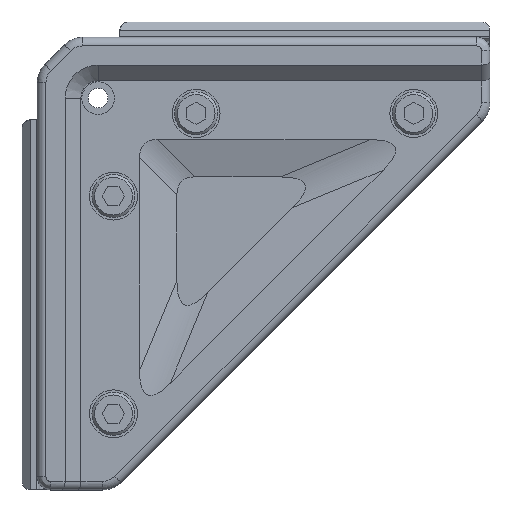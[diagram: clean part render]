
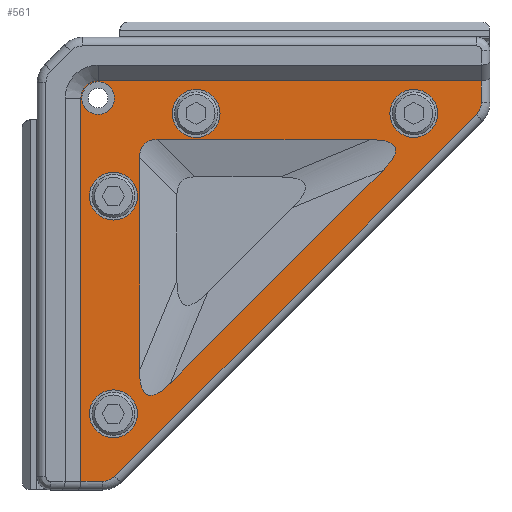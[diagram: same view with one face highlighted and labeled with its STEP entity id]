
A CAD part, front view. The second image highlights one B-rep face of the part: STEP entity #561.
In plain terms, the highlighted planar face has unit normal (0, -1, 0) as drawn and (0, 0, -1) by its records, which use the part's own axes.
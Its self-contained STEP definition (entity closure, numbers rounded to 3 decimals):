
#561=ADVANCED_FACE('',(#1136,#1137,#1138,#1139,#1140,#1141,#1142),#1143,.F.);
#1136=FACE_BOUND('',#1826,.T.);
#1137=FACE_BOUND('',#1827,.T.);
#1138=FACE_BOUND('',#1828,.T.);
#1139=FACE_BOUND('',#1829,.T.);
#1140=FACE_BOUND('',#1830,.T.);
#1141=FACE_OUTER_BOUND('',#1831,.T.);
#1142=FACE_BOUND('',#1832,.T.);
#1143=PLANE('',#1833);
#1826=EDGE_LOOP('',(#2963));
#1827=EDGE_LOOP('',(#2964));
#1828=EDGE_LOOP('',(#2965));
#1829=EDGE_LOOP('',(#2966));
#1830=EDGE_LOOP('',(#2967));
#1831=EDGE_LOOP('',(#2968,#2969,#2970,#2971,#2972,#2973,#2974,#2975));
#1832=EDGE_LOOP('',(#2976,#2977,#2978,#2979,#2980,#2981));
#1833=AXIS2_PLACEMENT_3D('',#2982,#2983,#2984);
#2963=ORIENTED_EDGE('',*,*,#4293,.F.);
#2964=ORIENTED_EDGE('',*,*,#4294,.F.);
#2965=ORIENTED_EDGE('',*,*,#4295,.F.);
#2966=ORIENTED_EDGE('',*,*,#4296,.F.);
#2967=ORIENTED_EDGE('',*,*,#4297,.F.);
#2968=ORIENTED_EDGE('',*,*,#4298,.F.);
#2969=ORIENTED_EDGE('',*,*,#4160,.T.);
#2970=ORIENTED_EDGE('',*,*,#4299,.T.);
#2971=ORIENTED_EDGE('',*,*,#4300,.T.);
#2972=ORIENTED_EDGE('',*,*,#4301,.T.);
#2973=ORIENTED_EDGE('',*,*,#4302,.T.);
#2974=ORIENTED_EDGE('',*,*,#4303,.F.);
#2975=ORIENTED_EDGE('',*,*,#4214,.T.);
#2976=ORIENTED_EDGE('',*,*,#4225,.F.);
#2977=ORIENTED_EDGE('',*,*,#4230,.T.);
#2978=ORIENTED_EDGE('',*,*,#4304,.F.);
#2979=ORIENTED_EDGE('',*,*,#4305,.T.);
#2980=ORIENTED_EDGE('',*,*,#4306,.F.);
#2981=ORIENTED_EDGE('',*,*,#4265,.T.);
#2982=CARTESIAN_POINT('',(-18.6,-52.0,15.689));
#2983=DIRECTION('',(0.0,0.0,1.0));
#2984=DIRECTION('',(1.0,0.0,0.0));
#4160=EDGE_CURVE('',#4983,#4981,#4984,.F.);
#4214=EDGE_CURVE('',#5067,#5068,#5069,.F.);
#4225=EDGE_CURVE('',#5084,#5085,#5086,.T.);
#4230=EDGE_CURVE('',#5084,#5090,#5092,.T.);
#4265=EDGE_CURVE('',#5141,#5085,#5142,.T.);
#4293=EDGE_CURVE('',#5181,#5181,#5182,.T.);
#4294=EDGE_CURVE('',#5183,#5183,#5184,.T.);
#4295=EDGE_CURVE('',#5185,#5185,#5186,.T.);
#4296=EDGE_CURVE('',#5187,#5187,#5188,.T.);
#4297=EDGE_CURVE('',#5189,#5189,#5190,.T.);
#4298=EDGE_CURVE('',#4983,#5068,#5191,.T.);
#4299=EDGE_CURVE('',#4981,#5192,#5193,.F.);
#4300=EDGE_CURVE('',#5192,#5194,#5195,.F.);
#4301=EDGE_CURVE('',#5194,#5196,#5197,.F.);
#4302=EDGE_CURVE('',#5196,#5198,#5199,.F.);
#4303=EDGE_CURVE('',#5067,#5198,#5200,.T.);
#4304=EDGE_CURVE('',#5201,#5090,#5202,.T.);
#4305=EDGE_CURVE('',#5201,#5203,#5204,.T.);
#4306=EDGE_CURVE('',#5141,#5203,#5205,.T.);
#4981=VERTEX_POINT('',#6089);
#4983=VERTEX_POINT('',#6091);
#4984=LINE('',#6092,#6093);
#5067=VERTEX_POINT('',#6205);
#5068=VERTEX_POINT('',#6206);
#5069=CIRCLE('',#6207,4.);
#5084=VERTEX_POINT('',#6228);
#5085=VERTEX_POINT('',#6229);
#5086=LINE('',#6230,#6231);
#5090=VERTEX_POINT('',#6237);
#5092=ELLIPSE('',#6240,156.855,16.0);
#5141=VERTEX_POINT('',#6301);
#5142=ELLIPSE('',#6302,156.855,16.0);
#5181=VERTEX_POINT('',#6351);
#5182=CIRCLE('',#6352,3.75);
#5183=VERTEX_POINT('',#6353);
#5184=CIRCLE('',#6354,5.5);
#5185=VERTEX_POINT('',#6355);
#5186=CIRCLE('',#6356,5.5);
#5187=VERTEX_POINT('',#6357);
#5188=CIRCLE('',#6358,5.5);
#5189=VERTEX_POINT('',#6359);
#5190=CIRCLE('',#6360,5.5);
#5191=LINE('',#6361,#6362);
#5192=VERTEX_POINT('',#6363);
#5193=CIRCLE('',#6364,4.0);
#5194=VERTEX_POINT('',#6365);
#5195=LINE('',#6366,#6367);
#5196=VERTEX_POINT('',#6368);
#5197=CIRCLE('',#6369,4.0);
#5198=VERTEX_POINT('',#6370);
#5199=LINE('',#6371,#6372);
#5200=LINE('',#6373,#6374);
#5201=VERTEX_POINT('',#6375);
#5202=LINE('',#6376,#6377);
#5203=VERTEX_POINT('',#6378);
#5204=ELLIPSE('',#6379,85.949,16.0);
#5205=LINE('',#6380,#6381);
#6089=CARTESIAN_POINT('',(77.0,36.985,15.689));
#6091=CARTESIAN_POINT('',(77.0,42.,15.689));
#6092=CARTESIAN_POINT('',(77.0,-52.0,15.689));
#6093=VECTOR('',#7129,1.0);
#6205=CARTESIAN_POINT('',(-15.,38.,15.689));
#6206=CARTESIAN_POINT('',(-11.0,42.,15.689));
#6207=AXIS2_PLACEMENT_3D('',#7198,#7199,#7200);
#6228=CARTESIAN_POINT('',(54.431,21.431,15.689));
#6229=CARTESIAN_POINT('',(5.569,-27.431,15.689));
#6230=CARTESIAN_POINT('',(-18.8,-51.8,15.689));
#6231=VECTOR('',#7210,1.0);
#6237=CARTESIAN_POINT('',(51.502,28.5,15.689));
#6240=AXIS2_PLACEMENT_3D('',#7214,#7215,#7216);
#6301=CARTESIAN_POINT('',(-1.5,-24.502,15.689));
#6302=AXIS2_PLACEMENT_3D('',#7259,#7260,#7261);
#6351=CARTESIAN_POINT('',(-11.0,34.25,15.689));
#6352=AXIS2_PLACEMENT_3D('',#7305,#7306,#7307);
#6353=CARTESIAN_POINT('',(61.5,29.0,15.689));
#6354=AXIS2_PLACEMENT_3D('',#7308,#7309,#7310);
#6355=CARTESIAN_POINT('',(11.5,29.0,15.689));
#6356=AXIS2_PLACEMENT_3D('',#7311,#7312,#7313);
#6357=CARTESIAN_POINT('',(-7.5,-40.0,15.689));
#6358=AXIS2_PLACEMENT_3D('',#7314,#7315,#7316);
#6359=CARTESIAN_POINT('',(-7.5,10.0,15.689));
#6360=AXIS2_PLACEMENT_3D('',#7317,#7318,#7319);
#6361=CARTESIAN_POINT('',(27.0,42.,15.689));
#6362=VECTOR('',#7320,1.0);
#6363=CARTESIAN_POINT('',(75.828,34.157,15.689));
#6364=AXIS2_PLACEMENT_3D('',#7321,#7322,#7323);
#6365=CARTESIAN_POINT('',(-7.157,-48.828,15.689));
#6366=CARTESIAN_POINT('',(-7.157,-48.828,15.689));
#6367=VECTOR('',#7324,1.0);
#6368=CARTESIAN_POINT('',(-9.985,-50.0,15.689));
#6369=AXIS2_PLACEMENT_3D('',#7325,#7326,#7327);
#6370=CARTESIAN_POINT('',(-15.,-50.0,15.689));
#6371=CARTESIAN_POINT('',(-18.6,-50.0,15.689));
#6372=VECTOR('',#7328,1.0);
#6373=CARTESIAN_POINT('',(-15.,0.0,15.689));
#6374=VECTOR('',#7329,1.0);
#6375=CARTESIAN_POINT('',(2.641,28.5,15.689));
#6376=CARTESIAN_POINT('',(-18.6,28.5,15.689));
#6377=VECTOR('',#7330,1.0);
#6378=CARTESIAN_POINT('',(-1.5,24.359,15.689));
#6379=AXIS2_PLACEMENT_3D('',#7331,#7332,#7333);
#6380=CARTESIAN_POINT('',(-1.5,-52.0,15.689));
#6381=VECTOR('',#7334,1.0);
#7129=DIRECTION('',(0.0,1.0,0.0));
#7198=CARTESIAN_POINT('',(-11.0,38.,15.689));
#7199=DIRECTION('',(0.0,0.0,1.0));
#7200=DIRECTION('',(1.0,0.0,0.0));
#7210=DIRECTION('',(-0.707,-0.707,0.0));
#7214=CARTESIAN_POINT('',(-87.745,-33.319,15.689));
#7215=DIRECTION('',(0.0,0.0,1.0));
#7216=DIRECTION('',(-0.924,-0.383,0.0));
#7259=CARTESIAN_POINT('',(60.319,114.745,15.689));
#7260=DIRECTION('',(0.0,-0.0,1.0));
#7261=DIRECTION('',(0.383,0.924,0.0));
#7305=CARTESIAN_POINT('',(-11.0,38.0,15.689));
#7306=DIRECTION('',(0.0,0.,-1.0));
#7307=DIRECTION('',(0.0,-1.0,0.));
#7308=CARTESIAN_POINT('',(61.5,34.5,15.689));
#7309=DIRECTION('',(0.0,0.,-1.0));
#7310=DIRECTION('',(0.0,-1.0,0.));
#7311=CARTESIAN_POINT('',(11.5,34.5,15.689));
#7312=DIRECTION('',(0.0,0.,-1.0));
#7313=DIRECTION('',(0.0,-1.0,0.));
#7314=CARTESIAN_POINT('',(-7.5,-34.5,15.689));
#7315=DIRECTION('',(0.0,0.,-1.0));
#7316=DIRECTION('',(0.0,-1.0,0.));
#7317=CARTESIAN_POINT('',(-7.5,15.5,15.689));
#7318=DIRECTION('',(0.0,0.,-1.0));
#7319=DIRECTION('',(0.0,-1.0,0.));
#7320=DIRECTION('',(-1.0,0.0,0.0));
#7321=CARTESIAN_POINT('',(73.0,36.985,15.689));
#7322=DIRECTION('',(0.0,0.0,1.0));
#7323=DIRECTION('',(1.0,0.0,0.0));
#7324=DIRECTION('',(0.707,0.707,0.0));
#7325=CARTESIAN_POINT('',(-9.985,-46.0,15.689));
#7326=DIRECTION('',(0.0,0.0,1.0));
#7327=DIRECTION('',(1.0,0.0,0.0));
#7328=DIRECTION('',(1.0,0.0,0.0));
#7329=DIRECTION('',(0.0,-1.0,0.0));
#7330=DIRECTION('',(1.0,0.,0.0));
#7331=CARTESIAN_POINT('',(60.319,-33.319,15.689));
#7332=DIRECTION('',(0.0,0.0,1.0));
#7333=DIRECTION('',(0.707,-0.707,0.0));
#7334=DIRECTION('',(0.,1.0,0.0));
